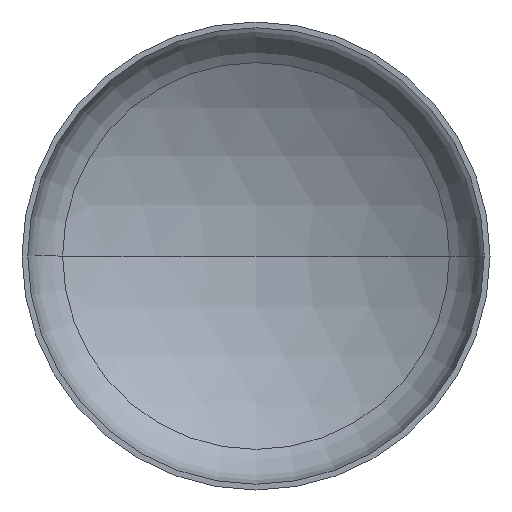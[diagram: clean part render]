
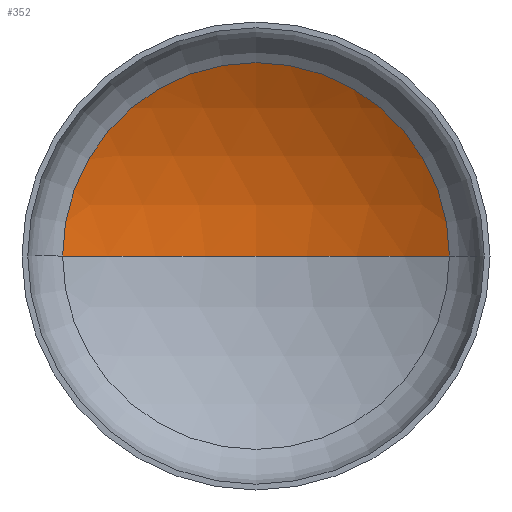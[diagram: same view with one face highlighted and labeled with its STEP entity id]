
A CAD part, front view. The second image highlights one B-rep face of the part: STEP entity #352.
In plain terms, the highlighted spherical face has radius 6000 mm.
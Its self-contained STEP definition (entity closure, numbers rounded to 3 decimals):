
#12 = ORIENTED_EDGE ( 'NONE', *, *, #81, .F. ) ;
#16 = DIRECTION ( 'NONE',  ( 0., 0., -1. ) ) ;
#34 = CIRCLE ( 'NONE', #50, 3099.69 ) ;
#46 = AXIS2_PLACEMENT_3D ( 'NONE', #171, #167, #170 ) ;
#48 = AXIS2_PLACEMENT_3D ( 'NONE', #262, #261, #185 ) ;
#50 = AXIS2_PLACEMENT_3D ( 'NONE', #254, #138, #148 ) ;
#54 = CARTESIAN_POINT ( 'NONE',  ( 0., -4048.375, 0. ) ) ;
#62 = FACE_OUTER_BOUND ( 'NONE', #337, .T. ) ;
#79 = EDGE_CURVE ( 'NONE', #351, #339, #34, .T. ) ;
#80 = EDGE_CURVE ( 'NONE', #184, #351, #355, .T. ) ;
#81 = EDGE_CURVE ( 'NONE', #184, #339, #210, .T. ) ;
#98 = SPHERICAL_SURFACE ( 'NONE', #326, 6000. ) ;
#100 = DIRECTION ( 'NONE',  ( -1., 0., 0. ) ) ;
#111 = CARTESIAN_POINT ( 'NONE',  ( -3099.69, 1088.932, 0. ) ) ;
#122 = CARTESIAN_POINT ( 'NONE',  ( 3099.69, 1088.932, 0. ) ) ;
#138 = DIRECTION ( 'NONE',  ( 0., -1., 0. ) ) ;
#148 = DIRECTION ( 'NONE',  ( 1., 0., 0. ) ) ;
#167 = DIRECTION ( 'NONE',  ( 0., 0., 1. ) ) ;
#170 = DIRECTION ( 'NONE',  ( 1., 0., 0. ) ) ;
#171 = CARTESIAN_POINT ( 'NONE',  ( 0., -4048.375, 0. ) ) ;
#179 = CARTESIAN_POINT ( 'NONE',  ( 0., 1951.625, 0. ) ) ;
#184 = VERTEX_POINT ( 'NONE', #179 ) ;
#185 = DIRECTION ( 'NONE',  ( -1., 0., 0. ) ) ;
#210 = CIRCLE ( 'NONE', #46, 6000. ) ;
#254 = CARTESIAN_POINT ( 'NONE',  ( 0., 1088.932, 0. ) ) ;
#261 = DIRECTION ( 'NONE',  ( 0., 0., -1. ) ) ;
#262 = CARTESIAN_POINT ( 'NONE',  ( 0., -4048.375, 0. ) ) ;
#315 = ORIENTED_EDGE ( 'NONE', *, *, #79, .T. ) ;
#326 = AXIS2_PLACEMENT_3D ( 'NONE', #54, #16, #100 ) ;
#337 = EDGE_LOOP ( 'NONE', ( #12, #396, #315 ) ) ;
#339 = VERTEX_POINT ( 'NONE', #111 ) ;
#351 = VERTEX_POINT ( 'NONE', #122 ) ;
#352 = ADVANCED_FACE ( 'NONE', ( #62 ), #98, .F. ) ;
#355 = CIRCLE ( 'NONE', #48, 6000. ) ;
#396 = ORIENTED_EDGE ( 'NONE', *, *, #80, .T. ) ;
